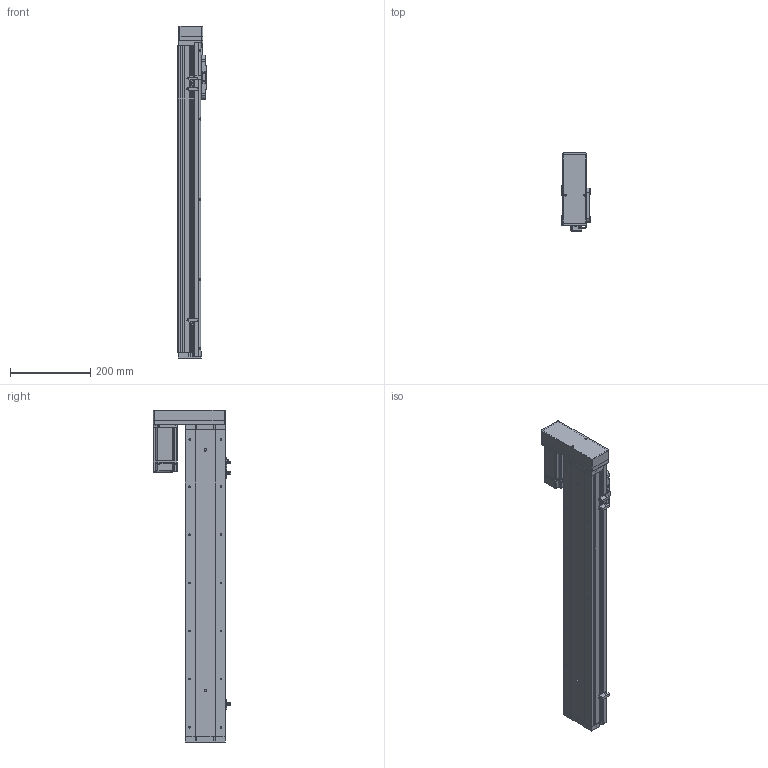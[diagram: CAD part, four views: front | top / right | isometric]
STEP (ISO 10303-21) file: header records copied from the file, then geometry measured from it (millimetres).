
FILE_DESCRIPTION (( 'STEP AP214' ), '1' );
FILE_NAME ('KSD100S-S600-ML-CR.STEP', '2019-09-02T08:14:08', ( '微软用户' ), ( '微软中国' ), 'SwSTEP 2.0', 'SolidWorks 2014', '' );
FILE_SCHEMA (( 'AUTOMOTIVE_DESIGN' ));
Length unit declared in the file: millimetre
Products named in the file (14): 100宽马达安装板连板左右折丝杆; U倰嫖萇EEㄜSX672; 感应片100宽全封闭; 100宽马达安装板全封闭; 100宽端板全封闭; 100宽滚珠螺姆安装板1防护罩; 100宽滚珠螺姆安装板1; 100遵裔啣揤啣; 100遵裔啣600俴最; 100遵耜啣600俴最佪裝; 100宽底板全封闭600行程丝杆; KSD100S-S600-ML-CR; MHMD042G1CA_2_03; 悵誘欶酘衵殏
Assembly tree (17 placements, depth 2):
  KSD100S-S600-ML-CR
    100宽底板全封闭600行程丝杆
    100遵耜啣600俴最佪裝  x2
    100遵裔啣600俴最
    100遵裔啣揤啣  x2
    100宽滚珠螺姆安装板1
    100宽滚珠螺姆安装板1防护罩
    100宽端板全封闭
    100宽马达安装板全封闭
    感应片100宽全封闭
    U倰嫖萇EEㄜSX672  x3
    100宽马达安装板连板左右折丝杆
    悵誘欶酘衵殏
    MHMD042G1CA_2_03
Bounding box: 70 x 193.7 x 828.5 mm (x, y, z)
Volume: 1717284.1 mm3; surface area: 783112.7 mm2
Topology: 16 solids, 17 shells, 1661 faces, 4628 edges, 2952 vertices
Faces by surface type: cylinder 715, plane 699, cone 229, bspline 18
Entity records: 55434 total; most frequent: CARTESIAN_POINT 8688, DIRECTION 7909, ORIENTED_EDGE 7312, EDGE_CURVE 3728, AXIS2_PLACEMENT_3D 2829, VERTEX_POINT 2470, VECTOR 2251, LINE 2251
